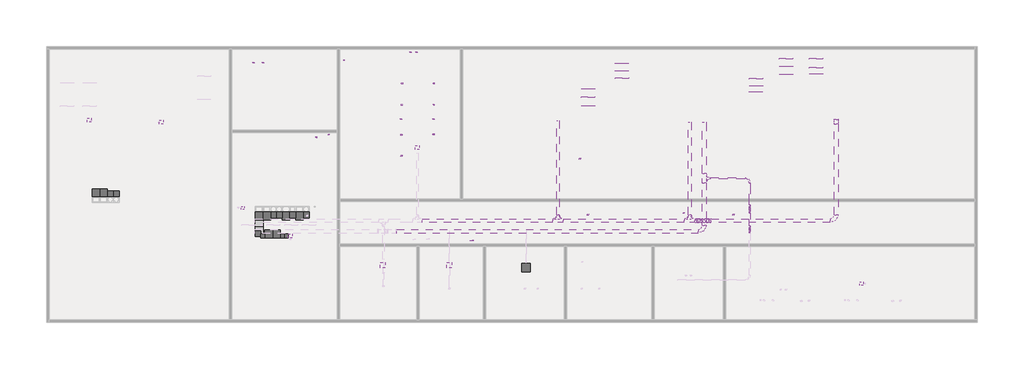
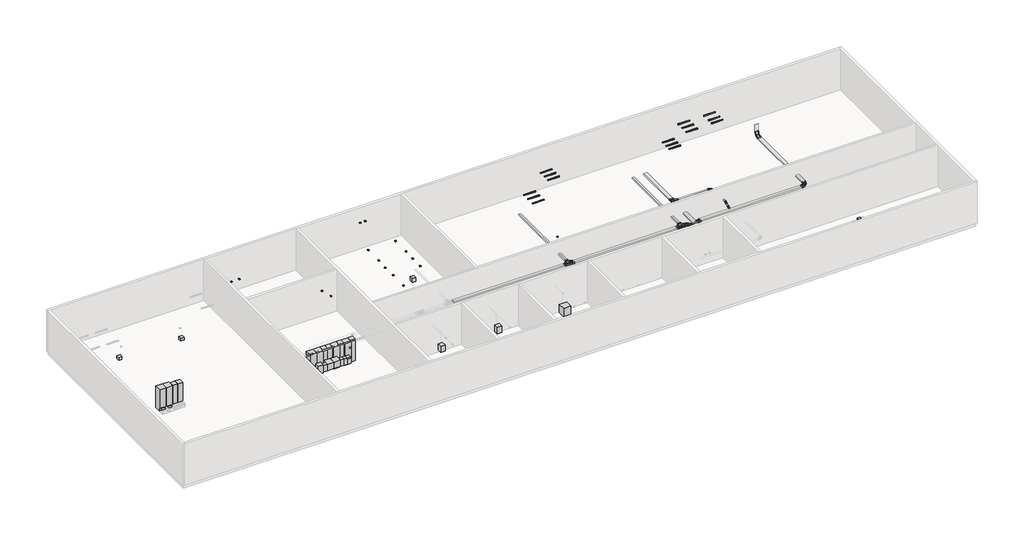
# One storey, part 3 of 3: 49 proxies, 19 cable carrier segments, 17 light fixtures, 15 cable carrier fittings.
"""IFC4 building model written with IfcOpenShell, lengths in millimetres."""

from ifc_helpers import new_model, si_unit, frame, origin, place, context, project, spatial, polyline, outline, extrude, transform, mapped, element, save
from components import generic_models_28f3a7fe, electrical_fixtures_ff56aada, generic_models_312a6694, generic_models_f8d4ad85, generic_models_0633d148, generic_models_33cc4bbc, generic_models_fd5a0a99, generic_models_a45427ab, generic_models_fe0a7764, generic_models_17a604cc, generic_models_925cb547, generic_models_930feccb, generic_models_096125e1, electrical_equipment_e4ef6d0d, electrical_equipment_8a72ac11, cable_carrier_fitting_0848be47, cable_carrier_fitting_ead96cba, cable_carrier_fitting_60ab624f, cable_carrier_fitting_be630497, cable_carrier_fitting_cb648aa1, cable_carrier_fitting_ae96e051, cable_carrier_fitting_304708ae, cable_carrier_fitting_83688e3a, cable_carrier_fitting_b810c309, cable_carrier_fitting_9748d520, cable_carrier_fitting_f6488f59, light_fixture_a1cd45f6, light_fixture_a752d895, light_fixture_98ed1024

model = new_model("IFC4")

# Units and contexts
model_context = context("Model", 3, world=origin())
ifc_project = project(units=[si_unit("LENGTHUNIT", "METRE", prefix="MILLI")], contexts=[model_context])

# Site, building, storey
site = spatial("IfcSite", under=ifc_project)
building = spatial("IfcBuilding", under=site)
storey = spatial("IfcBuildingStorey", under=building, Name="Координационный план", Elevation=0.0)

# Proxies
placement = place(None, origin())
generic_models_shape = generic_models_28f3a7fe(model_context)
element("IfcBuildingElementProxy", 1, Name="GM_Резиновый коврик : 600х600_мм", ObjectType="GM_Резиновый коврик : 600х600_мм", at=placement, inside=storey, context=model_context, shape_type="MappedRepresentation", body=[
    mapped(generic_models_shape, transform((2238.3505088, 810.0, 0.0), x_axis=(1.0, 0.0, 0.0), y_axis=(0.0, 1.0, 0.0), z_axis=(0.0, 0.0, 1.0))),
])
element("IfcBuildingElementProxy", 2, Name="GM_Резиновый коврик : 600х600_мм", ObjectType="GM_Резиновый коврик : 600х600_мм", at=placement, inside=storey, context=model_context, shape_type="MappedRepresentation", body=[
    mapped(generic_models_shape, transform((2238.3505088, 1410.0, 0.0), x_axis=(1.0, 0.0, 0.0), y_axis=(0.0, 1.0, 0.0), z_axis=(0.0, 0.0, 1.0))),
])
electrical_fixtures_shape = electrical_fixtures_ff56aada(model_context)
element("IfcBuildingElementProxy", 3, Name="mS_EF_НГ_электроприбор : mS_EF_НГ_электроприбор", ObjectType="mS_EF_НГ_электроприбор : mS_EF_НГ_электроприбор", at=placement, inside=storey, context=model_context, shape_type="MappedRepresentation", body=[
    mapped(electrical_fixtures_shape, transform((6710.0, 8097.7889782, 2712.088133), x_axis=(0.0, 1.0, 0.0), y_axis=(-1.0, 0.0, 0.0), z_axis=(0.0, 0.0, 1.0))),
])
element("IfcBuildingElementProxy", 4, Name="mS_EF_НГ_электроприбор : mS_EF_НГ_электроприбор", ObjectType="mS_EF_НГ_электроприбор : mS_EF_НГ_электроприбор", at=placement, inside=storey, context=model_context, shape_type="MappedRepresentation", body=[
    mapped(electrical_fixtures_shape, transform((13353.5648884, 10625.8070245, 1800.0), x_axis=(1.0, 0.0, 0.0), y_axis=(0.0, 1.0, 0.0), z_axis=(0.0, 0.0, 1.0))),
])
element("IfcBuildingElementProxy", 5, Name="mS_EF_НГ_электроприбор : mS_EF_НГ_электроприбор", ObjectType="mS_EF_НГ_электроприбор : mS_EF_НГ_электроприбор", at=placement, inside=storey, context=model_context, shape_type="MappedRepresentation", body=[
    mapped(electrical_fixtures_shape, transform((13293.101922, 9503.6932604, 1800.0), x_axis=(1.0, 0.0, 0.0), y_axis=(0.0, 1.0, 0.0), z_axis=(0.0, 0.0, 1.0))),
])
element("IfcBuildingElementProxy", 6, Name="mS_EF_НГ_электроприбор : mS_EF_НГ_электроприбор", ObjectType="mS_EF_НГ_электроприбор : mS_EF_НГ_электроприбор", at=placement, inside=storey, context=model_context, shape_type="MappedRepresentation", body=[
    mapped(electrical_fixtures_shape, transform((13322.3950616, 8289.9530332, 1800.0), x_axis=(1.0, 0.0, 0.0), y_axis=(0.0, 1.0, 0.0), z_axis=(0.0, 0.0, 1.0))),
])
element("IfcBuildingElementProxy", 7, Name="mS_EF_НГ_электроприбор : mS_EF_НГ_электроприбор", ObjectType="mS_EF_НГ_электроприбор : mS_EF_НГ_электроприбор", at=placement, inside=storey, context=model_context, shape_type="MappedRepresentation", body=[
    mapped(electrical_fixtures_shape, transform((15804.2717488, 9503.6932604, 1800.0), x_axis=(1.0, 0.0, 0.0), y_axis=(0.0, 1.0, 0.0), z_axis=(0.0, 0.0, 1.0))),
])
element("IfcBuildingElementProxy", 8, Name="mS_EF_НГ_электроприбор : mS_EF_НГ_электроприбор", ObjectType="mS_EF_НГ_электроприбор : mS_EF_НГ_электроприбор", at=placement, inside=storey, context=model_context, shape_type="MappedRepresentation", body=[
    mapped(electrical_fixtures_shape, transform((15833.5648884, 10630.0, 1800.0), x_axis=(1.0, 0.0, 0.0), y_axis=(0.0, 1.0, 0.0), z_axis=(0.0, 0.0, 1.0))),
])
element("IfcBuildingElementProxy", 9, Name="mS_EF_НГ_электроприбор : mS_EF_НГ_электроприбор", ObjectType="mS_EF_НГ_электроприбор : mS_EF_НГ_электроприбор", at=placement, inside=storey, context=model_context, shape_type="MappedRepresentation", body=[
    mapped(electrical_fixtures_shape, transform((15833.5648884, 12280.0, 1800.0), x_axis=(1.0, 0.0, 0.0), y_axis=(0.0, 1.0, 0.0), z_axis=(0.0, 0.0, 1.0))),
])
element("IfcBuildingElementProxy", 10, Name="mS_EF_НГ_электроприбор : mS_EF_НГ_электроприбор", ObjectType="mS_EF_НГ_электроприбор : mS_EF_НГ_электроприбор", at=placement, inside=storey, context=model_context, shape_type="MappedRepresentation", body=[
    mapped(electrical_fixtures_shape, transform((15804.2717488, 8310.1273492, 1800.0), x_axis=(1.0, 0.0, 0.0), y_axis=(0.0, 1.0, 0.0), z_axis=(0.0, 0.0, 1.0))),
])
element("IfcBuildingElementProxy", 11, Name="mS_EF_НГ_электроприбор : mS_EF_НГ_электроприбор", ObjectType="mS_EF_НГ_электроприбор : mS_EF_НГ_электроприбор", at=placement, inside=storey, context=model_context, shape_type="MappedRepresentation", body=[
    mapped(electrical_fixtures_shape, transform((13322.3950616, 6644.9530332, 1800.0), x_axis=(1.0, 0.0, 0.0), y_axis=(0.0, 1.0, 0.0), z_axis=(0.0, 0.0, 1.0))),
])
element("IfcBuildingElementProxy", 12, Name="mS_EF_НГ_электроприбор : mS_EF_НГ_электроприбор", ObjectType="mS_EF_НГ_электроприбор : mS_EF_НГ_электроприбор", at=placement, inside=storey, context=model_context, shape_type="MappedRepresentation", body=[
    mapped(electrical_fixtures_shape, transform((13353.5648884, 12280.0, 1800.0), x_axis=(1.0, 0.0, 0.0), y_axis=(0.0, 1.0, 0.0), z_axis=(0.0, 0.0, 1.0))),
])
element("IfcBuildingElementProxy", 13, Name="mS_EF_НГ_электроприбор : mS_EF_НГ_электроприбор", ObjectType="mS_EF_НГ_электроприбор : mS_EF_НГ_электроприбор", at=placement, inside=storey, context=model_context, shape_type="MappedRepresentation", body=[
    mapped(electrical_fixtures_shape, transform((1807.0392069, 13902.7583572, 1800.0), x_axis=(1.0, 0.0, 0.0), y_axis=(0.0, 1.0, 0.0), z_axis=(0.0, 0.0, 1.0))),
])
element("IfcBuildingElementProxy", 14, Name="mS_EF_НГ_электроприбор : mS_EF_НГ_электроприбор", ObjectType="mS_EF_НГ_электроприбор : mS_EF_НГ_электроприбор", at=placement, inside=storey, context=model_context, shape_type="MappedRepresentation", body=[
    mapped(electrical_fixtures_shape, transform((2532.7634619, 13902.7583572, 1800.0), x_axis=(1.0, 0.0, 0.0), y_axis=(0.0, 1.0, 0.0), z_axis=(0.0, 0.0, 1.0))),
])
generic_models_2_shape = generic_models_312a6694(model_context)
element("IfcBuildingElementProxy", 15, Name="▲GM_Зона обслуживания : Тип", ObjectType="▲GM_Зона обслуживания : Тип", at=placement, inside=storey, context=model_context, shape_type="MappedRepresentation", body=[
    mapped(generic_models_2_shape, transform((1925.225208, 2252.5292219, 0.0), x_axis=(1.0, 0.0, 0.0), y_axis=(0.0, 1.0, 0.0), z_axis=(0.0, 0.0, 1.0))),
])
element("IfcBuildingElementProxy", 16, Name="▲GM_Зона обслуживания : Тип", ObjectType="▲GM_Зона обслуживания : Тип", at=placement, inside=storey, context=model_context, shape_type="MappedRepresentation", body=[
    mapped(generic_models_2_shape, transform((2525.225208, 2252.5292219, 0.0), x_axis=(1.0, 0.0, 0.0), y_axis=(0.0, 1.0, 0.0), z_axis=(0.0, 0.0, 1.0))),
])
element("IfcBuildingElementProxy", 17, Name="▲GM_Зона обслуживания : Тип", ObjectType="▲GM_Зона обслуживания : Тип", at=placement, inside=storey, context=model_context, shape_type="MappedRepresentation", body=[
    mapped(generic_models_2_shape, transform((4025.225208, 2252.5292219, 0.0), x_axis=(1.0, 0.0, 0.0), y_axis=(0.0, 1.0, 0.0), z_axis=(0.0, 0.0, 1.0))),
])
element("IfcBuildingElementProxy", 18, Name="▲GM_Зона обслуживания : Тип", ObjectType="▲GM_Зона обслуживания : Тип", at=placement, inside=storey, context=model_context, shape_type="MappedRepresentation", body=[
    mapped(generic_models_2_shape, transform((5075.225208, 2252.5292219, 0.0), x_axis=(1.0, 0.0, 0.0), y_axis=(0.0, 1.0, 0.0), z_axis=(0.0, 0.0, 1.0))),
])
element("IfcBuildingElementProxy", 19, Name="▲GM_Зона обслуживания : Тип", ObjectType="▲GM_Зона обслуживания : Тип", at=placement, inside=storey, context=model_context, shape_type="MappedRepresentation", body=[
    mapped(generic_models_2_shape, transform((-10174.8851164, 3459.0275541, 0.0), x_axis=(-1.0, 0.0, 0.0), y_axis=(0.0, -1.0, 0.0), z_axis=(0.0, 0.0, 1.0))),
])
element("IfcBuildingElementProxy", 20, Name="▲GM_Зона обслуживания : Тип", ObjectType="▲GM_Зона обслуживания : Тип", at=placement, inside=storey, context=model_context, shape_type="MappedRepresentation", body=[
    mapped(generic_models_2_shape, transform((-9574.8851164, 3459.0275541, 0.0), x_axis=(-1.0, 0.0, 0.0), y_axis=(0.0, -1.0, 0.0), z_axis=(0.0, 0.0, 1.0))),
])
generic_models_3_shape = generic_models_f8d4ad85(model_context)
element("IfcBuildingElementProxy", 21, Name="▲GM_Зона обслуживания : Тип", ObjectType="▲GM_Зона обслуживания : Тип", at=placement, inside=storey, context=model_context, shape_type="MappedRepresentation", body=[
    mapped(generic_models_3_shape, transform((3125.225208, 2252.5292219, 0.0), x_axis=(1.0, 0.0, 0.0), y_axis=(0.0, 1.0, 0.0), z_axis=(0.0, 0.0, 1.0))),
])
element("IfcBuildingElementProxy", 22, Name="▲GM_Зона обслуживания : Тип", ObjectType="▲GM_Зона обслуживания : Тип", at=placement, inside=storey, context=model_context, shape_type="MappedRepresentation", body=[
    mapped(generic_models_3_shape, transform((3575.225208, 2252.5292219, 0.0), x_axis=(1.0, 0.0, 0.0), y_axis=(0.0, 1.0, 0.0), z_axis=(0.0, 0.0, 1.0))),
])
element("IfcBuildingElementProxy", 23, Name="▲GM_Зона обслуживания : Тип", ObjectType="▲GM_Зона обслуживания : Тип", at=placement, inside=storey, context=model_context, shape_type="MappedRepresentation", body=[
    mapped(generic_models_3_shape, transform((4625.225208, 2252.5292219, 0.0), x_axis=(1.0, 0.0, 0.0), y_axis=(0.0, 1.0, 0.0), z_axis=(0.0, 0.0, 1.0))),
])
element("IfcBuildingElementProxy", 24, Name="▲GM_Зона обслуживания : Тип", ObjectType="▲GM_Зона обслуживания : Тип", at=placement, inside=storey, context=model_context, shape_type="MappedRepresentation", body=[
    mapped(generic_models_3_shape, transform((-9124.8851164, 3459.0275541, 0.0), x_axis=(-1.0, 0.0, 0.0), y_axis=(0.0, -1.0, 0.0), z_axis=(0.0, 0.0, 1.0))),
])
element("IfcBuildingElementProxy", 25, Name="▲GM_Зона обслуживания : Тип", ObjectType="▲GM_Зона обслуживания : Тип", at=placement, inside=storey, context=model_context, shape_type="MappedRepresentation", body=[
    mapped(generic_models_3_shape, transform((-8674.8851164, 3459.0275541, 0.0), x_axis=(-1.0, 0.0, 0.0), y_axis=(0.0, -1.0, 0.0), z_axis=(0.0, 0.0, 1.0))),
])
element("IfcBuildingElementProxy", 26, Name="▲GM_Зона обслуживания : Тип", ObjectType="▲GM_Зона обслуживания : Тип", at=placement, inside=storey, context=model_context, shape_type="MappedRepresentation", body=[
    mapped(generic_models_3_shape, transform((5675.225208, 2252.5292219, 0.0), x_axis=(1.0, 0.0, 0.0), y_axis=(0.0, 1.0, 0.0), z_axis=(0.0, 0.0, 1.0))),
])
generic_models_4_shape = generic_models_0633d148(model_context)
element("IfcBuildingElementProxy", 27, Name="▲GM_Зона обслуживания : Тип", ObjectType="▲GM_Зона обслуживания : Тип", at=placement, inside=storey, context=model_context, shape_type="MappedRepresentation", body=[
    mapped(generic_models_4_shape, transform((2676.0767872, 246.4262106, 1180.0), x_axis=(-1.0, 0.0, 0.0), y_axis=(0.0, -1.0, 0.0), z_axis=(0.0, 0.0, 1.0))),
])
element("IfcBuildingElementProxy", 28, Name="▲GM_Зона обслуживания : Тип", ObjectType="▲GM_Зона обслуживания : Тип", at=placement, inside=storey, context=model_context, shape_type="MappedRepresentation", body=[
    mapped(generic_models_4_shape, transform((4186.0767872, 246.4262106, 1180.0), x_axis=(-1.0, 0.0, 0.0), y_axis=(0.0, -1.0, 0.0), z_axis=(0.0, 0.0, 1.0))),
])
element("IfcBuildingElementProxy", 29, Name="▲GM_Зона обслуживания : Тип", ObjectType="▲GM_Зона обслуживания : Тип", at=placement, inside=storey, context=model_context, shape_type="MappedRepresentation", body=[
    mapped(generic_models_4_shape, transform((4496.0767872, 246.4262106, 1180.0), x_axis=(-1.0, 0.0, 0.0), y_axis=(0.0, -1.0, 0.0), z_axis=(0.0, 0.0, 1.0))),
])
generic_models_5_shape = generic_models_33cc4bbc(model_context)
element("IfcBuildingElementProxy", 30, Name="▲GM_Зона обслуживания : Тип", ObjectType="▲GM_Зона обслуживания : Тип", at=placement, inside=storey, context=model_context, shape_type="MappedRepresentation", body=[
    mapped(generic_models_5_shape, transform((3276.0767872, 246.4262106, 1180.0), x_axis=(-1.0, 0.0, 0.0), y_axis=(0.0, -1.0, 0.0), z_axis=(0.0, 0.0, 1.0))),
])
element("IfcBuildingElementProxy", 31, Name="▲GM_Зона обслуживания : Тип", ObjectType="▲GM_Зона обслуживания : Тип", at=placement, inside=storey, context=model_context, shape_type="MappedRepresentation", body=[
    mapped(generic_models_5_shape, transform((3876.0767872, 246.4262106, 1180.0), x_axis=(-1.0, 0.0, 0.0), y_axis=(0.0, -1.0, 0.0), z_axis=(0.0, 0.0, 1.0))),
])
generic_models_6_shape = generic_models_fd5a0a99(model_context)
element("IfcBuildingElementProxy", 32, Name="▲GM_Зона обслуживания : Тип", ObjectType="▲GM_Зона обслуживания : Тип", at=placement, inside=storey, context=model_context, shape_type="MappedRepresentation", body=[
    mapped(generic_models_6_shape, transform((14718.1701182, 7136.920356, 1405.0), x_axis=(-1.0, 0.0, 0.0), y_axis=(0.0, -1.0, 0.0), z_axis=(0.0, 0.0, 1.0))),
])
generic_models_7_shape = generic_models_a45427ab(model_context)
element("IfcBuildingElementProxy", 33, Name="▲GM_Зона обслуживания : Тип", ObjectType="▲GM_Зона обслуживания : Тип", at=placement, inside=storey, context=model_context, shape_type="MappedRepresentation", body=[
    mapped(generic_models_7_shape, transform((11667.2128489, -1679.9109603, 1200.0), x_axis=(1.0, 0.0, 0.0), y_axis=(0.0, 1.0, 0.0), z_axis=(0.0, 0.0, 1.0))),
])
element("IfcBuildingElementProxy", 34, Name="▲GM_Зона обслуживания : Тип", ObjectType="▲GM_Зона обслуживания : Тип", at=placement, inside=storey, context=model_context, shape_type="MappedRepresentation", body=[
    mapped(generic_models_7_shape, transform((16847.4238515, -1679.9109603, 1200.0), x_axis=(1.0, 0.0, 0.0), y_axis=(0.0, 1.0, 0.0), z_axis=(0.0, 0.0, 1.0))),
])
generic_models_8_shape = generic_models_fe0a7764(model_context)
element("IfcBuildingElementProxy", 35, Name="▲GM_Зона обслуживания : Тип", ObjectType="▲GM_Зона обслуживания : Тип", at=placement, inside=storey, context=model_context, shape_type="MappedRepresentation", body=[
    mapped(generic_models_8_shape, transform((22697.4238515, -1749.9109603, 990.0), x_axis=(1.0, 0.0, 0.0), y_axis=(0.0, 1.0, 0.0), z_axis=(0.0, 0.0, 1.0))),
])
generic_models_9_shape = generic_models_17a604cc(model_context)
element("IfcBuildingElementProxy", 36, Name="▲GM_Зона обслуживания : Тип", ObjectType="▲GM_Зона обслуживания : Тип", at=placement, inside=storey, context=model_context, shape_type="MappedRepresentation", body=[
    mapped(generic_models_9_shape, transform((4796.0767872, 231.4262106, 1670.0), x_axis=(-1.0, 0.0, 0.0), y_axis=(0.0, -1.0, 0.0), z_axis=(0.0, 0.0, 1.0))),
])
generic_models_10_shape = generic_models_925cb547(model_context)
element("IfcBuildingElementProxy", 37, Name="▲GM_Зона обслуживания : Тип", ObjectType="▲GM_Зона обслуживания : Тип", at=placement, inside=storey, context=model_context, shape_type="MappedRepresentation", body=[
    mapped(generic_models_10_shape, transform((-10838.3937923, 9286.0575462, 1535.0), x_axis=(-1.0, 0.0, 0.0), y_axis=(0.0, -1.0, 0.0), z_axis=(0.0, 0.0, 1.0))),
])
element("IfcBuildingElementProxy", 38, Name="▲GM_Зона обслуживания : Тип", ObjectType="▲GM_Зона обслуживания : Тип", at=placement, inside=storey, context=model_context, shape_type="MappedRepresentation", body=[
    mapped(generic_models_10_shape, transform((-5240.6256618, 9127.969101, 1535.0), x_axis=(-1.0, 0.0, 0.0), y_axis=(0.0, -1.0, 0.0), z_axis=(0.0, 0.0, 1.0))),
])
generic_models_11_shape = generic_models_930feccb(model_context)
element("IfcBuildingElementProxy", 39, Name="▲GM_Зона обслуживания : Тип", ObjectType="▲GM_Зона обслуживания : Тип", at=placement, inside=storey, context=model_context, shape_type="MappedRepresentation", body=[
    mapped(generic_models_11_shape, transform((49016.2003383, -3204.6049557, 1600.0), x_axis=(1.0, 0.0, 0.0), y_axis=(0.0, 1.0, 0.0), z_axis=(0.0, 0.0, 1.0))),
])
element("IfcBuildingElementProxy", 40, Name="▲GM_Зона обслуживания : Тип", ObjectType="▲GM_Зона обслуживания : Тип", at=placement, inside=storey, context=model_context, shape_type="MappedRepresentation", body=[
    mapped(generic_models_11_shape, transform((837.1853163, 2689.7287686, 1600.0), x_axis=(1.0, 0.0, 0.0), y_axis=(0.0, 1.0, 0.0), z_axis=(0.0, 0.0, 1.0))),
])
generic_models_12_shape = generic_models_096125e1(model_context)
element("IfcBuildingElementProxy", 41, Name="▲GM_Зона обслуживания : Тип", ObjectType="▲GM_Зона обслуживания : Тип", at=placement, inside=storey, context=model_context, shape_type="MappedRepresentation", body=[
    mapped(generic_models_12_shape, transform((2365.225208, 346.4262106, 1000.0), x_axis=(-1.0, 0.0, 0.0), y_axis=(0.0, -1.0, 0.0), z_axis=(0.0, 0.0, 1.0))),
])
element("IfcBuildingElementProxy", 42, Name="mS_EF_НГ_электроприбор : mS_EF_НГ_электроприбор", ObjectType="mS_EF_НГ_электроприбор : mS_EF_НГ_электроприбор", at=placement, inside=storey, context=model_context, shape_type="MappedRepresentation", body=[
    mapped(electrical_fixtures_shape, transform((14483.1178836, 14720.9604887, 2712.088133), x_axis=(0.0, 1.0, 0.0), y_axis=(-1.0, 0.0, 0.0), z_axis=(0.0, 0.0, 1.0))),
])
element("IfcBuildingElementProxy", 43, Name="mS_EF_НГ_электроприбор : mS_EF_НГ_электроприбор", ObjectType="mS_EF_НГ_электроприбор : mS_EF_НГ_электроприбор", at=placement, inside=storey, context=model_context, shape_type="MappedRepresentation", body=[
    mapped(electrical_fixtures_shape, transform((14027.9017137, 14720.9604887, 2712.088133), x_axis=(0.0, 1.0, 0.0), y_axis=(-1.0, 0.0, 0.0), z_axis=(0.0, 0.0, 1.0))),
])
electrical_equipment_shape = electrical_equipment_e4ef6d0d(model_context)
element("IfcBuildingElementProxy", 44, Name="mS_EE_НГ_транзит : mS_EE_НГ_транзит", ObjectType="mS_EE_НГ_транзит : mS_EE_НГ_транзит", at=placement, inside=storey, context=model_context, shape_type="MappedRepresentation", body=[
    mapped(electrical_equipment_shape, transform((7650.0, 8298.4762745, 1800.0), x_axis=(-1.0, 0.0, 0.0), y_axis=(0.0, -1.0, 0.0), z_axis=(0.0, 0.0, 1.0))),
])
element("IfcBuildingElementProxy", 45, Name="mS_EE_НГ_транзит : mS_EE_НГ_транзит", ObjectType="mS_EE_НГ_транзит : mS_EE_НГ_транзит", at=placement, inside=storey, context=model_context, shape_type="MappedRepresentation", body=[
    mapped(electrical_equipment_shape, transform((27230.0731417, 6414.1092493, 1800.0), x_axis=(-1.0, 0.0, 0.0), y_axis=(0.0, -1.0, 0.0), z_axis=(0.0, 0.0, 1.0))),
])
element("IfcBuildingElementProxy", 46, Name="mS_EE_НГ_транзит : mS_EE_НГ_транзит", ObjectType="mS_EE_НГ_транзит : mS_EE_НГ_транзит", at=placement, inside=storey, context=model_context, shape_type="MappedRepresentation", body=[
    mapped(electrical_equipment_shape, transform((27842.4347859, 2056.9297468, 1800.0), x_axis=(-1.0, 0.0, 0.0), y_axis=(0.0, -1.0, 0.0), z_axis=(0.0, 0.0, 1.0))),
])
element("IfcBuildingElementProxy", 47, Name="mS_EE_НГ_транзит : mS_EE_НГ_транзит", ObjectType="mS_EE_НГ_транзит : mS_EE_НГ_транзит", at=placement, inside=storey, context=model_context, shape_type="MappedRepresentation", body=[
    mapped(electrical_equipment_shape, transform((39187.4347859, 2051.9297468, 1800.0), x_axis=(-1.0, 0.0, 0.0), y_axis=(0.0, -1.0, 0.0), z_axis=(0.0, 0.0, 1.0))),
])
element("IfcBuildingElementProxy", 48, Name="mS_EE_НГ_транзит : mS_EE_НГ_транзит", ObjectType="mS_EE_НГ_транзит : mS_EE_НГ_транзит", at=placement, inside=storey, context=model_context, shape_type="MappedRepresentation", body=[
    mapped(electrical_equipment_shape, transform((35306.4929908, 2177.8559021, 1800.0), x_axis=(-1.0, 0.0, 0.0), y_axis=(0.0, -1.0, 0.0), z_axis=(0.0, 0.0, 1.0))),
])
electrical_equipment_2_shape = electrical_equipment_8a72ac11(model_context)
element("IfcBuildingElementProxy", 49, Name="mS_EE_НГ_транзит : КО_IP44_ОУ_КУП_6Вв", ObjectType="mS_EE_НГ_транзит : КО_IP44_ОУ_КУП_6Вв", at=placement, inside=storey, context=model_context, shape_type="MappedRepresentation", body=[
    mapped(electrical_equipment_2_shape, transform((8859.4331244, 14110.0, 2500.0), x_axis=(0.0, -1.0, 0.0), y_axis=(1.0, 0.0, 0.0), z_axis=(0.0, 0.0, 1.0))),
])

# Cable carrier fittings
cable_carrier_fitting_shape = cable_carrier_fitting_0848be47(model_context)
element("IfcCableCarrierFitting", 50, ObjectType="ADSK_Поворот горизонтальный_Лестничный лоток : Радиус 300 мм", at=placement, inside=storey, context=model_context, shape_type="MappedRepresentation", body=[
    mapped(cable_carrier_fitting_shape, transform((47172.1146476, 1585.0, 2750.0), x_axis=(1.0, 0.0, 0.0), y_axis=(0.0, 1.0, 0.0), z_axis=(0.0, 0.0, 1.0))),
])
element("IfcCableCarrierFitting", 51, ObjectType="ADSK_Поворот горизонтальный_Лестничный лоток : Радиус 300 мм", at=placement, inside=storey, context=model_context, shape_type="MappedRepresentation", body=[
    mapped(cable_carrier_fitting_shape, transform((36899.7612457, 757.1822297, 2750.0), x_axis=(1.0, 0.0, 0.0), y_axis=(0.0, 1.0, 0.0), z_axis=(0.0, 0.0, 1.0))),
])
cable_carrier_fitting_2_shape = cable_carrier_fitting_ead96cba(model_context)
element("IfcCableCarrierFitting", 52, ObjectType="ADSK_Поворот вертикальный внутренний_Лестничный лоток : Радиус 300 мм", at=placement, inside=storey, context=model_context, shape_type="MappedRepresentation", body=[
    mapped(cable_carrier_fitting_2_shape, transform((37033.3487445, 1585.0, 2483.5874988), x_axis=(1.0, 0.0, 0.0), y_axis=(0.0, 0.0, 1.0), z_axis=(0.0, -1.0, 0.0))),
])
element("IfcCableCarrierFitting", 53, ObjectType="ADSK_Поворот вертикальный внутренний_Лестничный лоток : Радиус 300 мм", at=placement, inside=storey, context=model_context, shape_type="MappedRepresentation", body=[
    mapped(cable_carrier_fitting_2_shape, transform((36611.1737469, 1585.0, 2483.5874988), x_axis=(-1.0, 0.0, 0.0), y_axis=(0.0, 0.0, 1.0), z_axis=(0.0, 1.0, 0.0))),
])
cable_carrier_fitting_3_shape = cable_carrier_fitting_60ab624f(model_context)
element("IfcCableCarrierFitting", 54, ObjectType="ADSK_Поворот вертикальный наружный_Лестничный лоток : Радиус 300 мм", at=placement, inside=storey, context=model_context, shape_type="MappedRepresentation", body=[
    mapped(cable_carrier_fitting_3_shape, transform((37299.7612457, 1585.0, 2750.0), x_axis=(-1.0, 0.0, 0.0), y_axis=(0.0, 0.0, -1.0), z_axis=(0.0, -1.0, 0.0))),
])
element("IfcCableCarrierFitting", 55, ObjectType="ADSK_Поворот вертикальный наружный_Лестничный лоток : Радиус 300 мм", at=placement, inside=storey, context=model_context, shape_type="MappedRepresentation", body=[
    mapped(cable_carrier_fitting_3_shape, transform((36344.7612457, 1585.0, 2750.0), x_axis=(1.0, 0.0, 0.0), y_axis=(0.0, 0.0, -1.0), z_axis=(0.0, 1.0, 0.0))),
])
cable_carrier_fitting_4_shape = cable_carrier_fitting_be630497(model_context)
element("IfcCableCarrierFitting", 56, ObjectType="ADSK_Ответвление_Лестничный лоток : Радиус 300 мм", at=placement, inside=storey, context=model_context, shape_type="MappedRepresentation", body=[
    mapped(cable_carrier_fitting_4_shape, transform((36899.7612457, 4882.6066864, 2750.0), x_axis=(0.0, 1.0, 0.0), y_axis=(-1.0, 0.0, 0.0), z_axis=(0.0, 0.0, 1.0))),
])
cable_carrier_fitting_5_shape = cable_carrier_fitting_cb648aa1(model_context)
element("IfcCableCarrierFitting", 57, ObjectType="ADSK_Ответвление_Лестничный лоток : Радиус 300 мм", at=placement, inside=storey, context=model_context, shape_type="MappedRepresentation", body=[
    mapped(cable_carrier_fitting_5_shape, transform((25507.4238515, 1585.0, 2750.0), x_axis=(-1.0, 0.0, 0.0), y_axis=(0.0, -1.0, 0.0), z_axis=(0.0, 0.0, 1.0))),
])
element("IfcCableCarrierFitting", 58, ObjectType="ADSK_Ответвление_Лестничный лоток : Радиус 300 мм", at=placement, inside=storey, context=model_context, shape_type="MappedRepresentation", body=[
    mapped(cable_carrier_fitting_5_shape, transform((35769.2530086, 1585.0, 2750.0), x_axis=(-1.0, 0.0, 0.0), y_axis=(0.0, -1.0, 0.0), z_axis=(0.0, 0.0, 1.0))),
])
cable_carrier_fitting_6_shape = cable_carrier_fitting_ae96e051(model_context)
element("IfcCableCarrierFitting", 59, ObjectType="ADSK_Поворот вертикальный внутренний_Лестничный лоток : Радиус 300 мм", at=placement, inside=storey, context=model_context, shape_type="MappedRepresentation", body=[
    mapped(cable_carrier_fitting_6_shape, transform((47172.1146476, 9473.3814335, 2750.0), x_axis=(0.0, 1.0, 0.0), y_axis=(0.0, 0.0, 1.0), z_axis=(1.0, 0.0, 0.0))),
])
cable_carrier_fitting_7_shape = cable_carrier_fitting_304708ae(model_context)
element("IfcCableCarrierFitting", 60, ObjectType="ADSK_Поворот горизонтальный_Лестничный лоток : Радиус 300 мм", at=placement, inside=storey, context=model_context, shape_type="MappedRepresentation", body=[
    mapped(cable_carrier_fitting_7_shape, transform((40449.7612457, 4882.6066864, 2750.0), x_axis=(0.0, 1.0, 0.0), y_axis=(-1.0, 0.0, 0.0), z_axis=(0.0, 0.0, 1.0))),
])
cable_carrier_fitting_8_shape = cable_carrier_fitting_83688e3a(model_context)
element("IfcCableCarrierFitting", 61, ObjectType="ADSK_Поворот вертикальный наружный_Лестничный лоток : Радиус 300 мм", at=placement, inside=storey, context=model_context, shape_type="MappedRepresentation", body=[
    mapped(cable_carrier_fitting_8_shape, transform((40449.7612457, 2682.6066864, 2750.0), x_axis=(0.0, -1.0, 0.0), y_axis=(0.0, 0.0, -1.0), z_axis=(1.0, 0.0, 0.0))),
])
cable_carrier_fitting_9_shape = cable_carrier_fitting_b810c309(model_context)
element("IfcCableCarrierFitting", 62, ObjectType="ADSK_Поворот вертикальный внутренний_Лестничный лоток : Радиус 300 мм", at=placement, inside=storey, context=model_context, shape_type="MappedRepresentation", body=[
    mapped(cable_carrier_fitting_9_shape, transform((40449.7612457, 2312.4745218, 2481.0832415), x_axis=(0.0, -0.8090169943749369, -0.5877852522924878), y_axis=(0.0, -0.5877852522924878, 0.8090169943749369), z_axis=(-1.0, 0.0, 0.0))),
])
cable_carrier_fitting_10_shape = cable_carrier_fitting_9748d520(model_context)
element("IfcCableCarrierFitting", 63, ObjectType="ADSK_Поворот вертикальный внутренний_Лестничный лоток : Радиус 300 мм", at=placement, inside=storey, context=model_context, shape_type="MappedRepresentation", body=[
    mapped(cable_carrier_fitting_10_shape, transform((40449.7612457, 1033.4420969, 2481.0832415), x_axis=(0.0, -1.0, 0.0), y_axis=(0.0, 0.0, 1.0), z_axis=(-1.0, 0.0, 0.0))),
])
cable_carrier_fitting_11_shape = cable_carrier_fitting_f6488f59(model_context)
element("IfcCableCarrierFitting", 64, ObjectType="ADSK_Поворот вертикальный наружный_Лестничный лоток : Радиус 300 мм", at=placement, inside=storey, context=model_context, shape_type="MappedRepresentation", body=[
    mapped(cable_carrier_fitting_11_shape, transform((40449.7612457, 764.5253384, 2750.0), x_axis=(0.0, -0.7071067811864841, 0.707106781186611), y_axis=(0.0, -0.707106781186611, -0.7071067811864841), z_axis=(1.0, 0.0, 0.0))),
])

# Cable carrier segments
element("IfcCableCarrierSegment", 65, ObjectType="ADSK_Лестничный кабельный лоток", at=placement, inside=storey, context=model_context, shape_type="SweptSolid", body=[
    extrude(outline(polyline([(37049.7612457, 5242.6066864), (36749.7612457, 5242.6066864), (36749.7612457, 9254.5719311), (37049.7612457, 9254.5719311), (37049.7612457, 5242.6066864)])), frame((0.0, 0.0, 2700.0), z_axis=(0.0, 0.0, 1.0), x_axis=(1.0, 0.0, 0.0)), (0.0, 0.0, 1.0), 100.0),
])
element("IfcCableCarrierSegment", 66, ObjectType="ADSK_Лестничный кабельный лоток", at=placement, inside=storey, context=model_context, shape_type="SweptSolid", body=[
    extrude(outline(polyline([(46712.1146476, 1735.0), (46712.1146476, 1435.0), (37454.7359925, 1435.0), (37454.7359925, 1735.0), (46712.1146476, 1735.0)])), frame((0.0, 0.0, 2700.0), z_axis=(0.0, 0.0, 1.0), x_axis=(1.0, 0.0, 0.0)), (0.0, 0.0, 1.0), 100.0),
])
element("IfcCableCarrierSegment", 67, ObjectType="ADSK_Лестничный кабельный лоток", at=placement, inside=storey, context=model_context, shape_type="SweptSolid", body=[
    extrude(outline(polyline([(36766.1484938, 1435.0), (36766.1484938, 1735.0), (36878.3739977, 1735.0), (36878.3739977, 1435.0), (36766.1484938, 1435.0)])), frame((0.0, 0.0, 2433.5874988), z_axis=(0.0, 0.0, 1.0), x_axis=(1.0, 0.0, 0.0)), (0.0, 0.0, 1.0), 100.0),
])
element("IfcCableCarrierSegment", 68, ObjectType="ADSK_Лестничный кабельный лоток", at=placement, inside=storey, context=model_context, shape_type="SweptSolid", body=[
    extrude(outline(polyline([(50.0, 8.113883), (-50.0, 8.113883), (-50.0, 308.113883), (50.0, 308.113883), (50.0, 8.113883)])), frame((37142.9324389, 1426.886117, 2593.1711932), z_axis=(0.7071067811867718, 0.0, 0.7071067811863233), x_axis=(0.7071067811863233, 0.0, -0.7071067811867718)), (0.0, 0.0, 1.0), 66.8146787),
])
element("IfcCableCarrierSegment", 69, ObjectType="ADSK_Лестничный кабельный лоток", at=placement, inside=storey, context=model_context, shape_type="SweptSolid", body=[
    extrude(outline(polyline([(0.0, -300.0), (0.0, 0.0), (66.8146788, 0.0), (66.8146788, -300.0), (0.0, -300.0)])), frame((36466.2347135, 1435.0, 2557.8158541), z_axis=(0.7071067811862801, 0.0, 0.707106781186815), x_axis=(-0.707106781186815, 0.0, 0.7071067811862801)), (0.0, 0.0, 1.0), 100.0),
])
element("IfcCableCarrierSegment", 70, ObjectType="ADSK_Лестничный кабельный лоток", at=placement, inside=storey, context=model_context, shape_type="SweptSolid", body=[
    extrude(outline(polyline([(25097.4238515, 1735.0), (25097.4238515, 1435.0), (14923.1511731, 1435.0), (14923.1511731, 1735.0), (25097.4238515, 1735.0)])), frame((0.0, 0.0, 2700.0), z_axis=(0.0, 0.0, 1.0), x_axis=(1.0, 0.0, 0.0)), (0.0, 0.0, 1.0), 100.0),
])
element("IfcCableCarrierSegment", 71, ObjectType="ADSK_Лестничный кабельный лоток", at=placement, inside=storey, context=model_context, shape_type="SweptSolid", body=[
    extrude(outline(polyline([(25607.4238515, 2045.0), (25407.4238515, 2045.0), (25407.4238515, 9375.0), (25607.4238515, 9375.0), (25607.4238515, 2045.0)])), frame((0.0, 0.0, 2700.0), z_axis=(0.0, 0.0, 1.0), x_axis=(1.0, 0.0, 0.0)), (0.0, 0.0, 1.0), 100.0),
])
element("IfcCableCarrierSegment", 72, ObjectType="ADSK_Лестничный кабельный лоток", at=placement, inside=storey, context=model_context, shape_type="SweptSolid", body=[
    extrude(outline(polyline([(35359.2530086, 1735.0), (35359.2530086, 1435.0), (25917.4238515, 1435.0), (25917.4238515, 1735.0), (35359.2530086, 1735.0)])), frame((0.0, 0.0, 2700.0), z_axis=(0.0, 0.0, 1.0), x_axis=(1.0, 0.0, 0.0)), (0.0, 0.0, 1.0), 100.0),
])
element("IfcCableCarrierSegment", 73, ObjectType="ADSK_Лестничный кабельный лоток", at=placement, inside=storey, context=model_context, shape_type="SweptSolid", body=[
    extrude(outline(polyline([(36439.7612457, 907.1822297), (36439.7612457, 607.1822297), (12960.7789389, 607.1822297), (12960.7789389, 907.1822297), (36439.7612457, 907.1822297)])), frame((0.0, 0.0, 2700.0), z_axis=(0.0, 0.0, 1.0), x_axis=(1.0, 0.0, 0.0)), (0.0, 0.0, 1.0), 100.0),
])
element("IfcCableCarrierSegment", 74, ObjectType="ADSK_Лестничный кабельный лоток", at=placement, inside=storey, context=model_context, shape_type="SweptSolid", body=[
    extrude(outline(polyline([(35869.2530086, 2045.0), (35669.2530086, 2045.0), (35669.2530086, 9254.5719311), (35869.2530086, 9254.5719311), (35869.2530086, 2045.0)])), frame((0.0, 0.0, 2700.0), z_axis=(0.0, 0.0, 1.0), x_axis=(1.0, 0.0, 0.0)), (0.0, 0.0, 1.0), 100.0),
])
element("IfcCableCarrierSegment", 75, ObjectType="ADSK_Лестничный кабельный лоток", at=placement, inside=storey, context=model_context, shape_type="SweptSolid", body=[
    extrude(outline(polyline([(36189.7864989, 1735.0), (36189.7864989, 1435.0), (36179.2530086, 1435.0), (36179.2530086, 1735.0), (36189.7864989, 1735.0)])), frame((0.0, 0.0, 2700.0), z_axis=(0.0, 0.0, 1.0), x_axis=(1.0, 0.0, 0.0)), (0.0, 0.0, 1.0), 100.0),
])
element("IfcCableCarrierSegment", 76, ObjectType="ADSK_Лестничный кабельный лоток", at=placement, inside=storey, context=model_context, shape_type="SweptSolid", body=[
    extrude(outline(polyline([(47322.1146476, 2045.0), (47022.1146476, 2045.0), (47022.1146476, 9113.3814335), (47322.1146476, 9113.3814335), (47322.1146476, 2045.0)])), frame((0.0, 0.0, 2700.0), z_axis=(0.0, 0.0, 1.0), x_axis=(1.0, 0.0, 0.0)), (0.0, 0.0, 1.0), 100.0),
])
element("IfcCableCarrierSegment", 77, ObjectType="ADSK_Лестничный кабельный лоток", at=placement, inside=storey, context=model_context, shape_type="SweptSolid", body=[
    extrude(outline(polyline([(47322.1146476, 9523.3814335), (47322.1146476, 9423.3814335), (47022.1146476, 9423.3814335), (47022.1146476, 9523.3814335), (47322.1146476, 9523.3814335)])), frame((0.0, 0.0, 3110.0), z_axis=(0.0, 0.0, 1.0), x_axis=(1.0, 0.0, 0.0)), (0.0, 0.0, 1.0), 690.0),
])
element("IfcCableCarrierSegment", 78, ObjectType="ADSK_Перфорированный кабельный лоток", at=placement, inside=storey, context=model_context, shape_type="SweptSolid", body=[
    extrude(outline(polyline([(37359.7612457, 4832.6066864), (37359.7612457, 4932.6066864), (40089.7612457, 4932.6066864), (40089.7612457, 4832.6066864), (37359.7612457, 4832.6066864)])), frame((0.0, 0.0, 2700.0), z_axis=(0.0, 0.0, 1.0), x_axis=(1.0, 0.0, 0.0)), (0.0, 0.0, 1.0), 100.0),
])
element("IfcCableCarrierSegment", 79, ObjectType="ADSK_Лестничный кабельный лоток", at=placement, inside=storey, context=model_context, shape_type="SweptSolid", body=[
    extrude(outline(polyline([(37049.7612457, 1217.1822297), (36749.7612457, 1217.1822297), (36749.7612457, 4522.6066864), (37049.7612457, 4522.6066864), (37049.7612457, 1217.1822297)])), frame((0.0, 0.0, 2700.0), z_axis=(0.0, 0.0, 1.0), x_axis=(1.0, 0.0, 0.0)), (0.0, 0.0, 1.0), 100.0),
])
element("IfcCableCarrierSegment", 80, ObjectType="ADSK_Перфорированный кабельный лоток", at=placement, inside=storey, context=model_context, shape_type="SweptSolid", body=[
    extrude(outline(polyline([(40399.7612457, 4522.6066864), (40499.7612457, 4522.6066864), (40499.7612457, 2806.3285801), (40399.7612457, 2806.3285801), (40399.7612457, 4522.6066864)])), frame((0.0, 0.0, 2700.0), z_axis=(0.0, 0.0, 1.0), x_axis=(1.0, 0.0, 0.0)), (0.0, 0.0, 1.0), 100.0),
])
element("IfcCableCarrierSegment", 81, ObjectType="ADSK_Перфорированный кабельный лоток", at=placement, inside=storey, context=model_context, shape_type="SweptSolid", body=[
    extrude(outline(polyline([(0.0, -100.0), (0.0, 0.0), (210.0647287, 0.0), (210.0647287, -100.0), (0.0, -100.0)])), frame((40499.7612457, 2611.9028344, 2636.8272458), z_axis=(0.0, -0.587785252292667, 0.8090169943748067), x_axis=(0.0, -0.8090169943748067, -0.587785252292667)), (0.0, 0.0, 1.0), 100.0),
])
element("IfcCableCarrierSegment", 82, ObjectType="ADSK_Перфорированный кабельный лоток", at=placement, inside=storey, context=model_context, shape_type="SweptSolid", body=[
    extrude(outline(polyline([(40399.7612457, 2188.7526281), (40499.7612457, 2188.7526281), (40499.7612457, 1188.4168438), (40399.7612457, 1188.4168438), (40399.7612457, 2188.7526281)])), frame((0.0, 0.0, 2431.0832415), z_axis=(0.0, 0.0, 1.0), x_axis=(1.0, 0.0, 0.0)), (0.0, 0.0, 1.0), 100.0),
])
element("IfcCableCarrierSegment", 83, ObjectType="ADSK_Перфорированный кабельный лоток", at=placement, inside=storey, context=model_context, shape_type="SweptSolid", body=[
    extrude(outline(polyline([(0.0, -100.0), (0.0, 0.0), (70.3562334, 0.0), (70.3562334, -100.0), (0.0, -100.0)])), frame((40499.7612457, 888.5030635, 2555.3115968), z_axis=(0.0, 0.7071067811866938, 0.7071067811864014), x_axis=(0.0, -0.7071067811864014, 0.7071067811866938)), (0.0, 0.0, 1.0), 100.0),
])

# Light fixtures
light_fixture_shape = light_fixture_a1cd45f6(model_context)
element("IfcLightFixture", 84, ObjectType="LF_ОП_ТЛ : ДСП52_34_171_34Вт", at=placement, inside=storey, context=model_context, shape_type="MappedRepresentation", body=[
    mapped(light_fixture_shape, transform((40942.4347859, 11630.0, 2500.0), x_axis=(1.0, 0.0, 0.0), y_axis=(0.0, 1.0, 0.0), z_axis=(0.0, 0.0, 1.0))),
])
element("IfcLightFixture", 85, ObjectType="LF_ОП_ТЛ : ДСП52_34_171_34Вт", at=placement, inside=storey, context=model_context, shape_type="MappedRepresentation", body=[
    mapped(light_fixture_shape, transform((43266.81848, 12988.7453849, 2500.0), x_axis=(1.0, 0.0, 0.0), y_axis=(0.0, 1.0, 0.0), z_axis=(0.0, 0.0, 1.0))),
])
element("IfcLightFixture", 86, ObjectType="LF_ОП_ТЛ : ДСП52_34_171_34Вт", at=placement, inside=storey, context=model_context, shape_type="MappedRepresentation", body=[
    mapped(light_fixture_shape, transform((43266.81848, 13608.7453849, 2500.0), x_axis=(1.0, 0.0, 0.0), y_axis=(0.0, 1.0, 0.0), z_axis=(0.0, 0.0, 1.0))),
])
element("IfcLightFixture", 87, ObjectType="LF_ОП_ТЛ : ДСП52_34_171_34Вт", at=placement, inside=storey, context=model_context, shape_type="MappedRepresentation", body=[
    mapped(light_fixture_shape, transform((43266.81848, 14228.7453849, 2500.0), x_axis=(1.0, 0.0, 0.0), y_axis=(0.0, 1.0, 0.0), z_axis=(0.0, 0.0, 1.0))),
])
element("IfcLightFixture", 88, ObjectType="LF_ОП_ТЛ : ДСП52_34_171_34Вт", at=placement, inside=storey, context=model_context, shape_type="MappedRepresentation", body=[
    mapped(light_fixture_shape, transform((40942.4347859, 12090.0, 2500.0), x_axis=(1.0, 0.0, 0.0), y_axis=(0.0, 1.0, 0.0), z_axis=(0.0, 0.0, 1.0))),
])
element("IfcLightFixture", 89, ObjectType="LF_ОП_ТЛ : ДСП52_34_171_34Вт", at=placement, inside=storey, context=model_context, shape_type="MappedRepresentation", body=[
    mapped(light_fixture_shape, transform((40942.4347859, 12648.7453849, 2500.0), x_axis=(1.0, 0.0, 0.0), y_axis=(0.0, 1.0, 0.0), z_axis=(0.0, 0.0, 1.0))),
])
element("IfcLightFixture", 90, ObjectType="LF_ОП_ТЛ : ДСП52_34_171_34Вт", at=placement, inside=storey, context=model_context, shape_type="MappedRepresentation", body=[
    mapped(light_fixture_shape, transform((45606.81848, 13028.7453849, 2500.0), x_axis=(1.0, 0.0, 0.0), y_axis=(0.0, 1.0, 0.0), z_axis=(0.0, 0.0, 1.0))),
])
element("IfcLightFixture", 91, ObjectType="LF_ОП_ТЛ : ДСП52_34_171_34Вт", at=placement, inside=storey, context=model_context, shape_type="MappedRepresentation", body=[
    mapped(light_fixture_shape, transform((45606.81848, 13508.7453849, 2500.0), x_axis=(1.0, 0.0, 0.0), y_axis=(0.0, 1.0, 0.0), z_axis=(0.0, 0.0, 1.0))),
])
element("IfcLightFixture", 92, ObjectType="LF_ОП_ТЛ : ДСП52_34_171_34Вт", at=placement, inside=storey, context=model_context, shape_type="MappedRepresentation", body=[
    mapped(light_fixture_shape, transform((45606.81848, 14228.7453849, 2500.0), x_axis=(1.0, 0.0, 0.0), y_axis=(0.0, 1.0, 0.0), z_axis=(0.0, 0.0, 1.0))),
])
element("IfcLightFixture", 93, ObjectType="LF_ОП_ТЛ : ДСП52_32_141_32Вт", at=placement, inside=storey, context=model_context, shape_type="MappedRepresentation", body=[
    mapped(light_fixture_shape, transform((27842.4347859, 10536.9297468, 2500.0), x_axis=(1.0, 0.0, 0.0), y_axis=(0.0, 1.0, 0.0), z_axis=(0.0, 0.0, 1.0))),
])
element("IfcLightFixture", 94, ObjectType="LF_ОП_ТЛ : ДСП52_32_141_32Вт", at=placement, inside=storey, context=model_context, shape_type="MappedRepresentation", body=[
    mapped(light_fixture_shape, transform((27842.4347859, 11216.9297468, 2500.0), x_axis=(1.0, 0.0, 0.0), y_axis=(0.0, 1.0, 0.0), z_axis=(0.0, 0.0, 1.0))),
])
element("IfcLightFixture", 95, ObjectType="LF_ОП_ТЛ : ДСП52_32_141_32Вт", at=placement, inside=storey, context=model_context, shape_type="MappedRepresentation", body=[
    mapped(light_fixture_shape, transform((27842.4347859, 11856.9297468, 2500.0), x_axis=(1.0, 0.0, 0.0), y_axis=(0.0, 1.0, 0.0), z_axis=(0.0, 0.0, 1.0))),
])
element("IfcLightFixture", 96, ObjectType="LF_ОП_ТЛ : ДСП52_32_141_32Вт", at=placement, inside=storey, context=model_context, shape_type="MappedRepresentation", body=[
    mapped(light_fixture_shape, transform((30506.81848, 12708.4762745, 2500.0), x_axis=(1.0, 0.0, 0.0), y_axis=(0.0, 1.0, 0.0), z_axis=(0.0, 0.0, 1.0))),
])
element("IfcLightFixture", 97, ObjectType="LF_ОП_ТЛ : ДСП52_32_141_32Вт", at=placement, inside=storey, context=model_context, shape_type="MappedRepresentation", body=[
    mapped(light_fixture_shape, transform((30506.81848, 13268.4762745, 2500.0), x_axis=(1.0, 0.0, 0.0), y_axis=(0.0, 1.0, 0.0), z_axis=(0.0, 0.0, 1.0))),
])
element("IfcLightFixture", 98, ObjectType="LF_ОП_ТЛ : ДСП52_32_141_32Вт", at=placement, inside=storey, context=model_context, shape_type="MappedRepresentation", body=[
    mapped(light_fixture_shape, transform((30506.81848, 13848.7453849, 2500.0), x_axis=(1.0, 0.0, 0.0), y_axis=(0.0, 1.0, 0.0), z_axis=(0.0, 0.0, 1.0))),
])
light_fixture_2_shape = light_fixture_a752d895(model_context)
element("IfcLightFixture", 99, ObjectType="LF_ОП_Эвакуационный _ОУ : LED_1Ст_IP54_2кз_3ч_ДПА5040_3_4Вт", at=placement, inside=storey, context=model_context, shape_type="MappedRepresentation", body=[
    mapped(light_fixture_2_shape, transform((18817.9797876, 0.0, 1800.0), x_axis=(1.0, 0.0, 0.0), y_axis=(0.0, 1.0, 0.0), z_axis=(0.0, 0.0, 1.0))),
])
light_fixture_3_shape = light_fixture_98ed1024(model_context)
element("IfcLightFixture", 100, ObjectType="▲LF_Знак_в_модели : ▲LF_Знак_в_модели", at=placement, inside=storey, context=model_context, shape_type="MappedRepresentation", body=[
    mapped(light_fixture_3_shape, transform((18817.9797876, 50.0, 1780.0), x_axis=(1.0, 0.0, 0.0), y_axis=(0.0, 1.0, 0.0), z_axis=(0.0, 0.0, 1.0))),
])

save(model, "model.ifc")
